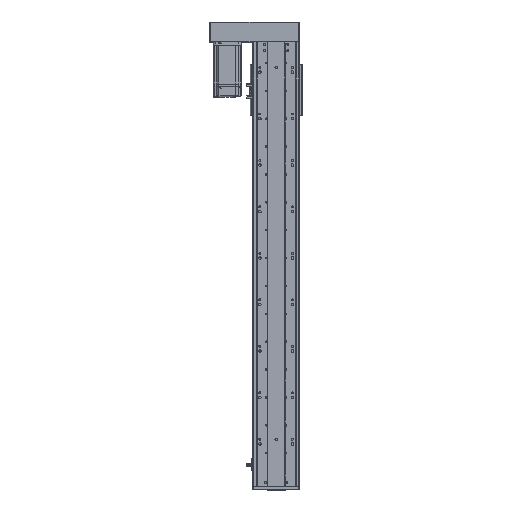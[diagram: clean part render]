
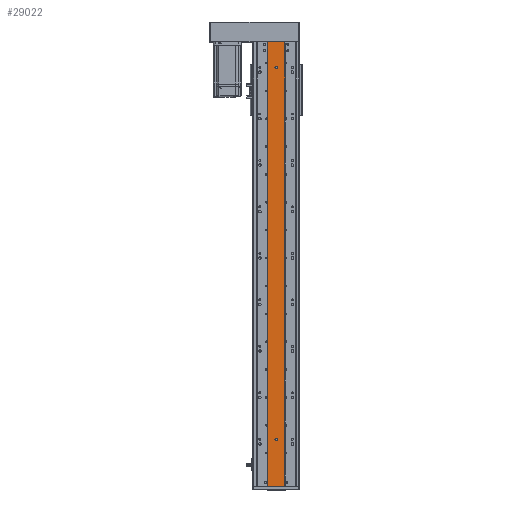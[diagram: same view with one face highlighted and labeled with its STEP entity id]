
A CAD part, top view. The second image highlights one B-rep face of the part: STEP entity #29022.
In plain terms, the highlighted planar face has unit normal (0, 0, 1).
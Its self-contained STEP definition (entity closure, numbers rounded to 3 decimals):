
#1123 = CIRCLE ( 'NONE', #34945, 2.5 ) ;
#1137 = LINE ( 'NONE', #48144, #1197 ) ;
#1149 = LINE ( 'NONE', #48173, #1159 ) ;
#1159 = VECTOR ( 'NONE', #48175, 1000. ) ;
#1197 = VECTOR ( 'NONE', #48151, 1000. ) ;
#3206 = ORIENTED_EDGE ( 'NONE', *, *, #45016, .T. ) ;
#3214 = ORIENTED_EDGE ( 'NONE', *, *, #44884, .T. ) ;
#3255 = ORIENTED_EDGE ( 'NONE', *, *, #44896, .T. ) ;
#3257 = ORIENTED_EDGE ( 'NONE', *, *, #44922, .F. ) ;
#3269 = ORIENTED_EDGE ( 'NONE', *, *, #45487, .T. ) ;
#3304 = ORIENTED_EDGE ( 'NONE', *, *, #44866, .T. ) ;
#3307 = ORIENTED_EDGE ( 'NONE', *, *, #44980, .F. ) ;
#3319 = ORIENTED_EDGE ( 'NONE', *, *, #45509, .T. ) ;
#3972 = CARTESIAN_POINT ( 'NONE',  ( -10645.079, 956., -17040.86 ) ) ;
#3977 = CARTESIAN_POINT ( 'NONE',  ( -10607.079, 0., -17040.86 ) ) ;
#4121 = CARTESIAN_POINT ( 'NONE',  ( -10607.079, 956., -17040.86 ) ) ;
#4181 = CARTESIAN_POINT ( 'NONE',  ( -10645.079, 0., -17040.86 ) ) ;
#6295 = CARTESIAN_POINT ( 'NONE',  ( -10628.579, 901., -17040.86 ) ) ;
#7218 = EDGE_LOOP ( 'NONE', ( #3319, #3304 ) ) ;
#7242 = EDGE_LOOP ( 'NONE', ( #3255, #3307, #3257, #3214 ) ) ;
#7247 = EDGE_LOOP ( 'NONE', ( #3269, #3206 ) ) ;
#7439 = VERTEX_POINT ( 'NONE', #6295 ) ;
#13473 = CARTESIAN_POINT ( 'NONE',  ( -10623.579, 901., -17040.86 ) ) ;
#15409 = AXIS2_PLACEMENT_3D ( 'NONE', #31161, #31143, #31147 ) ;
#20368 = DIRECTION ( 'NONE',  ( -1., 0., 0. ) ) ;
#20383 = DIRECTION ( 'NONE',  ( 0., 0., -1. ) ) ;
#20385 = CARTESIAN_POINT ( 'NONE',  ( -10626.079, 101., -17040.86 ) ) ;
#21736 = CARTESIAN_POINT ( 'NONE',  ( -10626.079, 901., -17040.86 ) ) ;
#21771 = DIRECTION ( 'NONE',  ( 0., 0., -1. ) ) ;
#21794 = DIRECTION ( 'NONE',  ( -1., 0., 0. ) ) ;
#29022 = ADVANCED_FACE ( 'NONE', ( #31747, #31727, #31726 ), #31126, .F. ) ;
#31126 = PLANE ( 'NONE',  #15409 ) ;
#31143 = DIRECTION ( 'NONE',  ( 0., 0., -1. ) ) ;
#31147 = DIRECTION ( 'NONE',  ( -1., 0., 0. ) ) ;
#31161 = CARTESIAN_POINT ( 'NONE',  ( -10645.079, 956., -17040.86 ) ) ;
#31726 = FACE_OUTER_BOUND ( 'NONE', #7242, .T. ) ;
#31727 = FACE_BOUND ( 'NONE', #7218, .T. ) ;
#31747 = FACE_BOUND ( 'NONE', #7247, .T. ) ;
#32453 = DIRECTION ( 'NONE',  ( 0., -1., 0. ) ) ;
#32457 = CARTESIAN_POINT ( 'NONE',  ( -10607.079, 956., -17040.86 ) ) ;
#32625 = DIRECTION ( 'NONE',  ( -1., 0., 0. ) ) ;
#32632 = DIRECTION ( 'NONE',  ( 0., 0., -1. ) ) ;
#32637 = CARTESIAN_POINT ( 'NONE',  ( -10626.079, 901., -17040.86 ) ) ;
#33343 = CARTESIAN_POINT ( 'NONE',  ( -10623.579, 101., -17040.86 ) ) ;
#33418 = CARTESIAN_POINT ( 'NONE',  ( -10628.579, 101., -17040.86 ) ) ;
#34945 = AXIS2_PLACEMENT_3D ( 'NONE', #48113, #48109, #48112 ) ;
#34974 = AXIS2_PLACEMENT_3D ( 'NONE', #32637, #32632, #32625 ) ;
#35216 = AXIS2_PLACEMENT_3D ( 'NONE', #21736, #21771, #21794 ) ;
#35223 = AXIS2_PLACEMENT_3D ( 'NONE', #20385, #20383, #20368 ) ;
#36472 = VERTEX_POINT ( 'NONE', #33343 ) ;
#36492 = VERTEX_POINT ( 'NONE', #33418 ) ;
#37873 = LINE ( 'NONE', #48261, #37942 ) ;
#37942 = VECTOR ( 'NONE', #48276, 1000. ) ;
#37981 = VECTOR ( 'NONE', #32453, 1000. ) ;
#38002 = LINE ( 'NONE', #32457, #37981 ) ;
#38018 = CIRCLE ( 'NONE', #34974, 2.5 ) ;
#38742 = CIRCLE ( 'NONE', #35216, 2.5 ) ;
#38767 = CIRCLE ( 'NONE', #35223, 2.5 ) ;
#42749 = VERTEX_POINT ( 'NONE', #13473 ) ;
#44866 = EDGE_CURVE ( 'NONE', #36492, #36472, #1123, .T. ) ;
#44884 = EDGE_CURVE ( 'NONE', #46798, #47403, #1137, .T. ) ;
#44896 = EDGE_CURVE ( 'NONE', #47403, #46832, #1149, .T. ) ;
#44922 = EDGE_CURVE ( 'NONE', #46798, #47387, #37873, .T. ) ;
#44980 = EDGE_CURVE ( 'NONE', #47387, #46832, #38002, .T. ) ;
#45016 = EDGE_CURVE ( 'NONE', #7439, #42749, #38018, .T. ) ;
#45487 = EDGE_CURVE ( 'NONE', #42749, #7439, #38742, .T. ) ;
#45509 = EDGE_CURVE ( 'NONE', #36472, #36492, #38767, .T. ) ;
#46798 = VERTEX_POINT ( 'NONE', #3972 ) ;
#46832 = VERTEX_POINT ( 'NONE', #3977 ) ;
#47387 = VERTEX_POINT ( 'NONE', #4121 ) ;
#47403 = VERTEX_POINT ( 'NONE', #4181 ) ;
#48109 = DIRECTION ( 'NONE',  ( 0., 0., -1. ) ) ;
#48112 = DIRECTION ( 'NONE',  ( -1., 0., 0. ) ) ;
#48113 = CARTESIAN_POINT ( 'NONE',  ( -10626.079, 101., -17040.86 ) ) ;
#48144 = CARTESIAN_POINT ( 'NONE',  ( -10645.079, 956., -17040.86 ) ) ;
#48151 = DIRECTION ( 'NONE',  ( 0., -1., 0. ) ) ;
#48173 = CARTESIAN_POINT ( 'NONE',  ( -10645.079, 0., -17040.86 ) ) ;
#48175 = DIRECTION ( 'NONE',  ( 1., 0., 0. ) ) ;
#48261 = CARTESIAN_POINT ( 'NONE',  ( -10645.079, 956., -17040.86 ) ) ;
#48276 = DIRECTION ( 'NONE',  ( 1., 0., 0. ) ) ;
